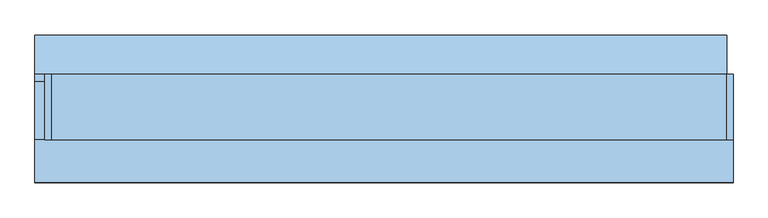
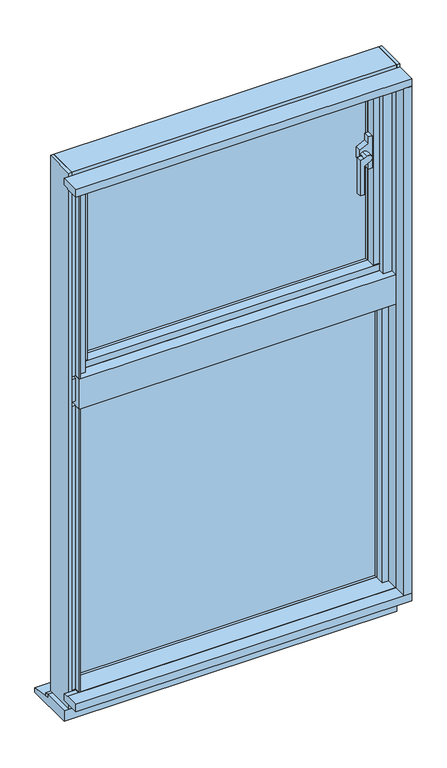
"""IFC4 building model written with IfcOpenShell, lengths in millimetres: window geometry, FNSⅡ100R_非防火_RC枠_段窓 : たてすべりだし/FIX."""

from ifc_helpers import new_model, si_unit, frame, origin, place, context, project, spatial, polyline, circle_curve, outline, extrude, faceted_brep, source, transform, mapped, element, save
from ifc_brep_helpers import plane_surface, cylinder_surface, advanced_brep


def window_b47a5142(model_context):
    return source(origin(), model_context, "Body", "SolidModel", [
        advanced_brep(
        [(422.5780089, -43.25, 2359.8870044), (413.0, -43.25, 2355.2157929), (399.9, -43.25, 2355.1670227), (399.9, -43.25, 2235.0), (413.0, -43.25, 2235.0), (413.0, -43.25, 2330.7385568), (432.2217924, -43.25, 2340.1128987), (422.5780089, -18.75, 2359.8870044), (432.2217924, -18.75, 2340.1128987), (413.0, -18.75, 2330.7385568), (413.0, -18.75, 2355.2157929), (413.0, -28.273, 2330.7385568), (413.0, -28.273, 2355.2157929), (399.9, -28.273, 2355.1670227), (413.0, -28.273, 2235.0), (399.9, -28.273, 2235.0)],
        [
            (0, 1),
            (1, 2),
            (2, 3),
            (3, 4),
            (4, 5),
            (5, 6),
            (6, 0, circle_curve(frame((427.3999338, -43.25, 2349.9999677), z_axis=(0.0, -1.0, 0.0), x_axis=(-1.0, 0.0, 0.0)), 11.0002024)),
            (7, 8, circle_curve(frame((427.3999338, -18.75, 2349.9999677), z_axis=(0.0, 1.0, 0.0), x_axis=(-1.0, 0.0, 0.0)), 11.0002024)),
            (8, 9),
            (9, 10),
            (10, 7),
            (6, 8),
            (7, 0),
            (5, 11),
            (11, 9),
            (10, 12),
            (12, 1),
            (11, 12),
            (13, 12),
            (11, 14),
            (14, 15),
            (15, 13),
            (4, 14),
            (3, 15),
            (2, 13),
        ],
        [
            plane_surface(frame((416.3997314, -43.25, 2349.9999677), z_axis=(0.0, -1.0, 0.0), x_axis=(0.0, 0.0, 1.0))),
            plane_surface(frame((416.3997314, -18.75, 2349.9999677), z_axis=(0.0, 1.0, 0.0), x_axis=(0.0, 0.0, -1.0))),
            cylinder_surface(frame((427.3999338, -18.75, 2349.9999677), z_axis=(0.0, -1.0, 0.0), x_axis=(-1.0, 0.0, 0.0)), 11.0002024),
            plane_surface(frame((432.2217924, -43.25, 2340.1128987), z_axis=(0.4383427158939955, 0.0, -0.8988079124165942), x_axis=(0.0, 1.0, 0.0))),
            plane_surface(frame((413.0, -43.25, 2355.2157929), z_axis=(-0.43834873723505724, 0.0, 0.8988049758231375), x_axis=(0.0, 1.0, 0.0))),
            plane_surface(frame((413.0, -43.25, 2330.7385568), z_axis=(-1.0, 0.0, 0.0), x_axis=(0.0, 1.0, 0.0))),
            plane_surface(frame((412.9, -28.273, 2355.1670227), z_axis=(0.0, 1.0, 0.0), x_axis=(-1.0, 0.0, 0.0))),
            plane_surface(frame((413.0, -43.25, 2355.1670227), z_axis=(1.0, 0.0, 0.0), x_axis=(0.0, 1.0, 0.0))),
            plane_surface(frame((413.0, -43.25, 2235.0), z_axis=(0.0, 0.0, -1.0), x_axis=(0.0, 1.0, 0.0))),
            plane_surface(frame((399.9, -43.25, 2235.0), z_axis=(-1.0, 0.0, 0.0), x_axis=(0.0, 1.0, 0.0))),
            plane_surface(frame((399.9, -43.25, 2355.1670227), z_axis=(0.0, 0.0, 1.0), x_axis=(0.0, 1.0, 0.0))),
        ],
        [
            (0, [[1, 2, 3, 4, 5, 6, 7]]),
            (1, [[8, 9, 10, 11]]),
            (2, [[12, -8, 13, -7]]),
            (3, [[14, 15, -9, -12, -6]]),
            (4, [[-13, -11, 16, 17, -1]]),
            (5, [[-15, 18, -16, -10]]),
            (6, [[19, -18, 20, 21, 22]]),
            (7, [[-20, -14, -5, 23]]),
            (8, [[24, -21, -23, -4]]),
            (9, [[25, -22, -24, -3]]),
            (10, [[-17, -19, -25, -2]]),
        ],
    ),
        extrude(outline(polyline([(2404.0, 453.0), (2404.0, 440.0), (2381.1802364, 440.0), (2367.9350486, 413.0), (2332.0649514, 413.0), (2318.8197636, 440.0), (2296.0, 440.0), (2296.0, 453.0), (2404.0, 453.0)])), frame((0.0, -18.75, 0.0), z_axis=(0.0, 1.0, 0.0), x_axis=(0.0, 0.0, 1.0)), (0.0, 0.0, 1.0), 21.0),
        extrude(outline(polyline([(-453.0, 25.0), (453.0, 25.0), (453.0, 19.0), (-453.0, 19.0), (-453.0, 25.0)])), frame((0.0, 0.0, 1969.0), z_axis=(0.0, 0.0, 1.0), x_axis=(1.0, 0.0, 0.0)), (0.0, 0.0, 1.0), 585.0),
        extrude(outline(polyline([(-453.0, 43.0), (453.0, 43.0), (453.0, 37.0), (-453.0, 37.0), (-453.0, 43.0)])), frame((0.0, 0.0, 1969.0), z_axis=(0.0, 0.0, 1.0), x_axis=(1.0, 0.0, 0.0)), (0.0, 0.0, 1.0), 585.0),
        faceted_brep([(-500.0, 50.5, 1929.0), (-500.0, 55.0, 1929.0), (-472.2, 55.0, 1929.0), (-472.2, -17.0, 1929.0), (-486.0, -17.0, 1929.0), (-486.0, 50.5, 1929.0), (-500.0, 50.5, 2600.0), (-500.0, 55.0, 2600.0), (-472.2, 55.0, 2600.0), (-472.2, 55.0, 2554.0), (-453.0, 55.0, 2554.0), (-453.0, 55.0, 1969.0), (-472.2, 55.0, 1969.0), (-472.2, 6.0, 1969.0), (-472.2, 6.0, 2554.0), (-472.2, 48.5, 2600.0), (-472.2, 48.5, 2584.0), (-472.2, -17.0, 2584.0), (-486.0, -17.0, 2584.0), (-486.0, 48.5, 2584.0), (-486.0, 48.5, 2600.0), (-486.0, 50.5, 2600.0), (-453.0, 6.0, 2554.0), (-453.0, 6.0, 1969.0)], [[[0, 1, 2, 3, 4, 5]], [[6, 7, 1, 0]], [[7, 8, 9, 10, 11, 12, 2, 1]], [[3, 2, 12, 13, 14, 9, 8, 15, 16, 17]], [[4, 3, 17, 18]], [[5, 4, 18, 19, 20, 21]], [[21, 6, 0, 5]], [[10, 22, 23, 11]], [[12, 11, 23, 13]], [[22, 14, 13, 23]], [[6, 21, 20, 15, 8, 7]], [[16, 19, 18, 17]], [[19, 16, 15, 20]], [[14, 22, 10, 9]]]),
        faceted_brep([(500.0, 50.5, 1929.0), (486.0, 50.5, 1929.0), (486.0, -17.0, 1929.0), (472.2, -17.0, 1929.0), (472.2, 55.0, 1929.0), (500.0, 55.0, 1929.0), (500.0, 50.5, 2600.0), (486.0, 50.5, 2600.0), (486.0, 48.5, 2600.0), (486.0, 48.5, 2584.0), (486.0, -17.0, 2584.0), (472.2, -17.0, 2584.0), (472.2, 48.5, 2584.0), (472.2, 48.5, 2600.0), (472.2, 55.0, 2600.0), (472.2, 55.0, 2554.0), (472.2, 6.0, 2554.0), (472.2, 6.0, 1969.0), (472.2, 55.0, 1969.0), (500.0, 55.0, 2600.0), (453.0, 55.0, 1969.0), (453.0, 55.0, 2554.0), (453.0, 6.0, 1969.0), (453.0, 6.0, 2554.0)], [[[0, 1, 2, 3, 4, 5]], [[6, 7, 1, 0]], [[2, 1, 7, 8, 9, 10]], [[3, 2, 10, 11]], [[4, 3, 11, 12, 13, 14, 15, 16, 17, 18]], [[14, 19, 5, 4, 18, 20, 21, 15]], [[19, 6, 0, 5]], [[17, 22, 20, 18]], [[23, 21, 20, 22]], [[16, 23, 22, 17]], [[6, 19, 14, 13, 8, 7]], [[9, 12, 11, 10]], [[12, 9, 8, 13]], [[15, 21, 23, 16]]]),
        extrude(outline(polyline([(-453.0, -22.5), (-472.2, -22.5), (-472.2, 6.0), (-453.0, 6.0), (-453.0, -22.5)])), frame((0.0, 0.0, 1972.0), z_axis=(0.0, 0.0, 1.0), x_axis=(1.0, 0.0, 0.0)), (0.0, 0.0, 1.0), 579.0),
        extrude(outline(polyline([(453.0, -22.5), (453.0, 6.0), (472.2, 6.0), (472.2, -22.5), (453.0, -22.5)])), frame((0.0, 0.0, 1972.0), z_axis=(0.0, 0.0, 1.0), x_axis=(1.0, 0.0, 0.0)), (0.0, 0.0, 1.0), 579.0),
        extrude(outline(polyline([(472.2, 6.0), (472.2, -25.0), (-472.2, -25.0), (-472.2, 6.0), (472.2, 6.0)])), frame((0.0, 0.0, 1950.0), z_axis=(0.0, 0.0, 1.0), x_axis=(1.0, 0.0, 0.0)), (0.0, 0.0, 1.0), 22.0),
        extrude(outline(polyline([(55.0, 1929.0), (-17.0, 1929.0), (-17.0, 1950.0), (6.0, 1950.0), (6.0, 1969.0), (55.0, 1969.0), (55.0, 1929.0)])), frame((-472.2, 0.0, 0.0), z_axis=(1.0, 0.0, 0.0), x_axis=(0.0, 1.0, 0.0)), (0.0, 0.0, 1.0), 944.4),
        extrude(outline(polyline([(55.0, 2600.0), (55.0, 2554.0), (6.0, 2554.0), (6.0, 2573.2), (-17.0, 2573.2), (-17.0, 2584.0), (48.5, 2584.0), (48.5, 2600.0), (55.0, 2600.0)])), frame((-472.2, 0.0, 0.0), z_axis=(1.0, 0.0, 0.0), x_axis=(0.0, 1.0, 0.0)), (0.0, 0.0, 1.0), 944.4),
        extrude(outline(polyline([(472.2, 6.0), (472.2, -25.0), (-472.2, -25.0), (-472.2, 6.0), (472.2, 6.0)])), frame((0.0, 0.0, 2551.0), z_axis=(0.0, 0.0, 1.0), x_axis=(1.0, 0.0, 0.0)), (0.0, 0.0, 1.0), 22.2),
        faceted_brep([(-515.0, 55.0, 2635.0), (-515.0, -45.0, 2635.0), (-515.0, -45.0, 840.0), (-515.0, 55.0, 840.0), (-515.0, 55.0, 1900.0), (-515.0, -26.0, 1900.0), (-515.0, -26.0, 2600.0), (-515.0, 55.0, 2600.0), (-525.0, -45.0, 2635.0), (-525.0, -45.0, 840.0), (-500.0, 55.0, 2600.0), (-478.0, -26.0, 2600.0), (-478.0, -21.0, 2600.0), (-500.0, -21.0, 2600.0), (-525.0, 55.0, 840.0), (-525.0, 55.0, 2635.0), (-500.0, 55.0, 1900.0), (-500.0, -21.0, 1900.0), (-478.0, -21.0, 1900.0), (-478.0, -26.0, 1900.0)], [[[0, 1, 2, 3, 4, 5, 6, 7]], [[1, 8, 9, 2]], [[10, 7, 6, 11, 12, 13]], [[14, 3, 2, 9]], [[15, 0, 7, 10, 16, 4, 3, 14]], [[8, 15, 14, 9]], [[16, 17, 18, 19, 5, 4]], [[11, 6, 5, 19]], [[10, 13, 17, 16]], [[13, 12, 18, 17]], [[12, 11, 19, 18]], [[15, 8, 1, 0]]]),
        faceted_brep([(478.0, -26.0, 2600.0), (478.0, -21.0, 2600.0), (478.0, -21.0, 1900.0), (478.0, -26.0, 1900.0), (500.0, -21.0, 2600.0), (515.0, -26.0, 2600.0), (515.0, 55.0, 2600.0), (500.0, 55.0, 2600.0), (515.0, -45.0, 840.0), (515.0, 55.0, 840.0), (525.0, 55.0, 840.0), (525.0, -45.0, 840.0), (515.0, -45.0, 2635.0), (515.0, 55.0, 2635.0), (515.0, -26.0, 1900.0), (515.0, 55.0, 1900.0), (525.0, 55.0, 2635.0), (500.0, 55.0, 1900.0), (525.0, -45.0, 2635.0), (500.0, -21.0, 1900.0)], [[[0, 1, 2, 3]], [[4, 1, 0, 5, 6, 7]], [[8, 9, 10, 11]], [[12, 13, 6, 5, 14, 15, 9, 8]], [[13, 16, 10, 9, 15, 17, 7, 6]], [[16, 18, 11, 10]], [[18, 12, 8, 11]], [[19, 17, 15, 14, 3, 2]], [[4, 7, 17, 19]], [[5, 0, 3, 14]], [[1, 4, 19, 2]], [[12, 18, 16, 13]]]),
        extrude(outline(polyline([(500.0, -65.0), (500.0, -45.0), (472.0, -45.0), (472.0, -26.0), (515.0, -26.0), (515.0, -45.0), (503.0, -45.0), (503.0, -65.0), (500.0, -65.0)])), frame((0.0, 0.0, 1950.0), z_axis=(0.0, 0.0, 1.0), x_axis=(1.0, 0.0, 0.0)), (0.0, 0.0, 1.0), 653.0),
        extrude(outline(polyline([(-515.0, -45.0), (-515.0, -26.0), (-472.0, -26.0), (-472.0, -45.0), (-500.0, -45.0), (-500.0, -65.0), (-503.0, -65.0), (-503.0, -45.0), (-515.0, -45.0)])), frame((0.0, 0.0, 1950.0), z_axis=(0.0, 0.0, 1.0), x_axis=(1.0, 0.0, 0.0)), (0.0, 0.0, 1.0), 653.0),
        extrude(outline(polyline([(-26.0, 2573.0), (-47.5, 2573.0), (-47.5, 2600.0), (-65.0, 2600.0), (-65.0, 2603.0), (-45.0, 2603.0), (-45.0, 2612.5), (-26.0, 2612.5), (-26.0, 2573.0)])), frame((-500.0, 0.0, 0.0), z_axis=(1.0, 0.0, 0.0), x_axis=(0.0, 1.0, 0.0)), (0.0, 0.0, 1.0), 1000.0),
        extrude(outline(polyline([(55.0, 2600.0), (-21.0, 2600.0), (-21.0, 2579.0), (-26.0, 2579.0), (-26.0, 2612.5), (-45.0, 2612.5), (-45.0, 2635.0), (55.0, 2635.0), (55.0, 2600.0)])), frame((-515.0, 0.0, 0.0), z_axis=(1.0, 0.0, 0.0), x_axis=(0.0, 1.0, 0.0)), (0.0, 0.0, 1.0), 1030.0),
        extrude(outline(polyline([(-45.0, 1940.0), (-45.0, 1865.0), (5.0, 1865.0), (5.0, 1850.0), (-65.0, 1850.0), (-65.0, 1950.0), (-26.0, 1950.0), (-26.0, 1940.0), (-45.0, 1940.0)])), frame((-503.0, 0.0, 0.0), z_axis=(1.0, 0.0, 0.0), x_axis=(0.0, 1.0, 0.0)), (0.0, 0.0, 1.0), 1006.0),
        extrude(outline(polyline([(55.0, 1850.0), (5.0, 1850.0), (5.0, 1865.0), (-45.0, 1865.0), (-45.0, 1940.0), (-21.0, 1940.0), (-21.0, 1915.0), (44.0, 1915.0), (44.0, 1900.0), (55.0, 1900.0), (55.0, 1850.0)])), frame((-515.0, 0.0, 0.0), z_axis=(1.0, 0.0, 0.0), x_axis=(0.0, 1.0, 0.0)), (0.0, 0.0, 1.0), 1030.0),
        extrude(outline(polyline([(-480.0, 20.6), (480.0, 20.6), (480.0, 14.6), (-480.0, 14.6), (-480.0, 20.6)])), frame((0.0, 0.0, 900.0), z_axis=(0.0, 0.0, 1.0), x_axis=(1.0, 0.0, 0.0)), (0.0, 0.0, 1.0), 950.0),
        extrude(outline(polyline([(-480.0, 38.6), (480.0, 38.6), (480.0, 32.6), (-480.0, 32.6), (-480.0, 38.6)])), frame((0.0, 0.0, 900.0), z_axis=(0.0, 0.0, 1.0), x_axis=(1.0, 0.0, 0.0)), (0.0, 0.0, 1.0), 950.0),
        extrude(outline(polyline([(-480.0, 55.0), (-480.0, 5.0), (-515.0, 5.0), (-515.0, 55.0), (-480.0, 55.0)])), frame((0.0, 0.0, 900.0), z_axis=(0.0, 0.0, 1.0), x_axis=(1.0, 0.0, 0.0)), (0.0, 0.0, 1.0), 950.0),
        extrude(outline(polyline([(515.0, 55.0), (515.0, 5.0), (480.0, 5.0), (480.0, 55.0), (515.0, 55.0)])), frame((0.0, 0.0, 900.0), z_axis=(0.0, 0.0, 1.0), x_axis=(1.0, 0.0, 0.0)), (0.0, 0.0, 1.0), 950.0),
        extrude(outline(polyline([(500.0, -65.0), (500.0, -26.5), (480.0, -26.5), (480.0, 5.0), (515.0, 5.0), (515.0, -45.0), (503.0, -45.0), (503.0, -65.0), (500.0, -65.0)])), frame((0.0, 0.0, 900.0), z_axis=(0.0, 0.0, 1.0), x_axis=(1.0, 0.0, 0.0)), (0.0, 0.0, 1.0), 950.0),
        extrude(outline(polyline([(-515.0, -45.0), (-515.0, 5.0), (-480.0, 5.0), (-480.0, -26.5), (-500.0, -26.5), (-500.0, -65.0), (-503.0, -65.0), (-503.0, -45.0), (-515.0, -45.0)])), frame((0.0, 0.0, 900.0), z_axis=(0.0, 0.0, 1.0), x_axis=(1.0, 0.0, 0.0)), (0.0, 0.0, 1.0), 950.0),
        extrude(outline(polyline([(-45.0, 884.0), (-45.0, 897.0), (-65.0, 897.0), (-65.0, 900.0), (5.0, 900.0), (5.0, 884.0), (-45.0, 884.0)])), frame((-503.0, 0.0, 0.0), z_axis=(1.0, 0.0, 0.0), x_axis=(0.0, 1.0, 0.0)), (0.0, 0.0, 1.0), 1006.0),
        extrude(outline(polyline([(55.0, 840.0), (-45.0, 840.0), (-45.0, 884.0), (5.0, 884.0), (5.0, 900.0), (55.0, 900.0), (55.0, 870.0), (36.0, 870.0), (36.0, 850.0), (55.0, 850.0), (55.0, 840.0)])), frame((-515.0, 0.0, 0.0), z_axis=(1.0, 0.0, 0.0), x_axis=(0.0, 1.0, 0.0)), (0.0, 0.0, 1.0), 1030.0),
        extrude(outline(polyline([(-45.0, 897.0), (-45.0, 875.0), (-110.0, 875.0), (-110.0, 900.0), (-65.0, 900.0), (-65.0, 897.0), (-45.0, 897.0)])), frame((-540.0, 0.0, 0.0), z_axis=(1.0, 0.0, 0.0), x_axis=(0.0, 1.0, 0.0)), (0.0, 0.0, 1.0), 1065.0),
        extrude(outline(polyline([(45.0, 840.0), (55.0, 840.0), (55.0, 828.4285714), (45.0, 830.0), (45.0, 840.0)])), frame((-540.0, 0.0, 0.0), z_axis=(1.0, 0.0, 0.0), x_axis=(0.0, 1.0, 0.0)), (0.0, 0.0, 1.0), 1055.0),
        extrude(outline(polyline([(-45.0, 804.0), (-45.0, 840.0), (45.0, 840.0), (45.0, 830.0), (115.0, 819.0), (115.0, 804.0), (-45.0, 804.0)])), frame((-540.0, 0.0, 0.0), z_axis=(1.0, 0.0, 0.0), x_axis=(0.0, 1.0, 0.0)), (0.0, 0.0, 1.0), 1055.0),
        extrude(outline(polyline([(500.0, -110.0), (500.0, -65.0), (503.0, -65.0), (503.0, -45.0), (525.0, -45.0), (525.0, -110.0), (500.0, -110.0)])), frame((0.0, 0.0, 900.0), z_axis=(0.0, 0.0, 1.0), x_axis=(1.0, 0.0, 0.0)), (0.0, 0.0, 1.0), 1700.0),
        extrude(outline(polyline([(525.0, -45.0), (525.0, -110.0), (500.0, -110.0), (500.0, -65.0), (503.0, -65.0), (503.0, -45.0), (525.0, -45.0)])), frame((0.0, 0.0, 900.0), z_axis=(0.0, 0.0, 1.0), x_axis=(1.0, 0.0, 0.0)), (0.0, 0.0, 1.0), 1700.0),
        extrude(outline(polyline([(-45.0, 2625.0), (-45.0, 2603.0), (-65.0, 2603.0), (-65.0, 2600.0), (-110.0, 2600.0), (-110.0, 2625.0), (-45.0, 2625.0)])), frame((-540.0, 0.0, 0.0), z_axis=(1.0, 0.0, 0.0), x_axis=(0.0, 1.0, 0.0)), (0.0, 0.0, 1.0), 1065.0),
    ])


if __name__ == "__main__":
    model = new_model("IFC4")
    model_context = context("Model", 3, world=origin())
    ifc_project = project(units=[si_unit("LENGTHUNIT", "METRE", prefix="MILLI")], contexts=[model_context])
    site = spatial("IfcSite", under=ifc_project)
    building = spatial("IfcBuilding", under=site)
    placement = place(None, origin())
    window_shape = window_b47a5142(model_context)
    element("IfcWindow", 1, ObjectType="FNSⅡ100R_非防火_RC枠_段窓 : たてすべりだし/FIX", at=placement, inside=building, context=model_context, shape_type="MappedRepresentation", body=[
        mapped(window_shape, transform((0.0, 0.0, 0.0), x_axis=(1.0, 0.0, 0.0), y_axis=(0.0, 1.0, 0.0), z_axis=(0.0, 0.0, 1.0))),
    ])
    save(model, "model.ifc")
